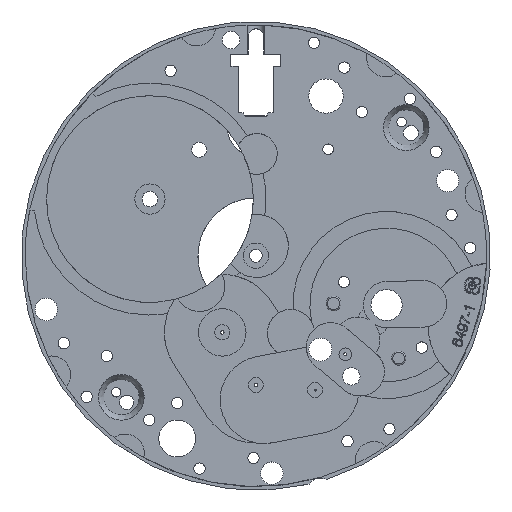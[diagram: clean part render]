
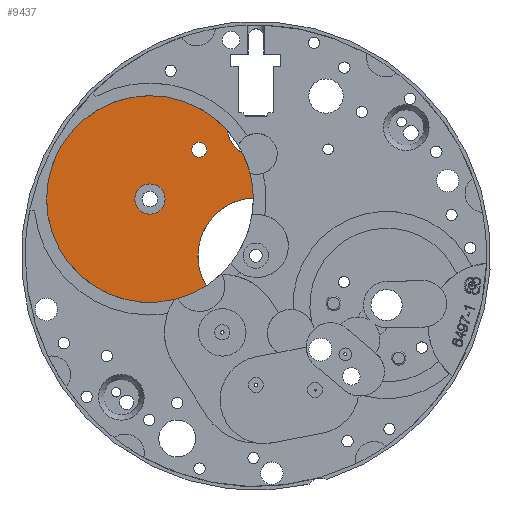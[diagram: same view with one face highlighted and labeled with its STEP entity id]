
A CAD part, top view. The second image highlights one B-rep face of the part: STEP entity #9437.
In plain terms, the highlighted planar face has unit normal (0, 0, 1).
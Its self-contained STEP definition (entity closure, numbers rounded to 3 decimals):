
#896=FACE_BOUND('',#1656,.T.);
#897=FACE_BOUND('',#1657,.T.);
#1144=FACE_OUTER_BOUND('',#1655,.T.);
#1655=EDGE_LOOP('',(#7371,#7372,#7373,#7374,#7375));
#1656=EDGE_LOOP('',(#7376,#7377));
#1657=EDGE_LOOP('',(#7378,#7379));
#2291=CIRCLE('',#10055,4.197);
#2294=CIRCLE('',#10058,4.197);
#2345=CIRCLE('',#10124,7.912);
#2352=CIRCLE('',#10132,2.103);
#2353=CIRCLE('',#10133,2.103);
#2390=CIRCLE('',#10180,28.679);
#2399=CIRCLE('',#10189,28.679);
#2400=CIRCLE('',#10190,28.679);
#2553=CIRCLE('',#10396,16.088);
#4232=VERTEX_POINT('',#14199);
#4233=VERTEX_POINT('',#14200);
#4302=VERTEX_POINT('',#14366);
#4303=VERTEX_POINT('',#14368);
#4309=VERTEX_POINT('',#14385);
#4310=VERTEX_POINT('',#14387);
#4345=VERTEX_POINT('',#14479);
#4346=VERTEX_POINT('',#14480);
#4350=VERTEX_POINT('',#14496);
#5240=EDGE_CURVE('',#4232,#4233,#2291,.T.);
#5244=EDGE_CURVE('',#4233,#4232,#2294,.T.);
#5323=EDGE_CURVE('',#4303,#4302,#2345,.T.);
#5334=EDGE_CURVE('',#4310,#4309,#2352,.T.);
#5335=EDGE_CURVE('',#4309,#4310,#2353,.T.);
#5381=EDGE_CURVE('',#4345,#4346,#2390,.T.);
#5392=EDGE_CURVE('',#4346,#4302,#2399,.T.);
#5393=EDGE_CURVE('',#4303,#4350,#2400,.T.);
#5728=EDGE_CURVE('',#4345,#4350,#2553,.T.);
#7371=ORIENTED_EDGE('',*,*,#5728,.T.);
#7372=ORIENTED_EDGE('',*,*,#5393,.F.);
#7373=ORIENTED_EDGE('',*,*,#5323,.T.);
#7374=ORIENTED_EDGE('',*,*,#5392,.F.);
#7375=ORIENTED_EDGE('',*,*,#5381,.F.);
#7376=ORIENTED_EDGE('',*,*,#5334,.T.);
#7377=ORIENTED_EDGE('',*,*,#5335,.T.);
#7378=ORIENTED_EDGE('',*,*,#5240,.F.);
#7379=ORIENTED_EDGE('',*,*,#5244,.F.);
#9102=PLANE('',#10395);
#9437=ADVANCED_FACE('',(#1144,#896,#897),#9102,.T.);
#10055=AXIS2_PLACEMENT_3D('',#14201,#11427,#11428);
#10058=AXIS2_PLACEMENT_3D('',#14207,#11434,#11435);
#10124=AXIS2_PLACEMENT_3D('',#14369,#11594,#11595);
#10132=AXIS2_PLACEMENT_3D('',#14388,#11614,#11615);
#10133=AXIS2_PLACEMENT_3D('',#14389,#11616,#11617);
#10180=AXIS2_PLACEMENT_3D('',#14481,#11719,#11720);
#10189=AXIS2_PLACEMENT_3D('',#14495,#11739,#11740);
#10190=AXIS2_PLACEMENT_3D('',#14497,#11741,#11742);
#10395=AXIS2_PLACEMENT_3D('',#15312,#12313,#12314);
#10396=AXIS2_PLACEMENT_3D('',#15313,#12315,#12316);
#11427=DIRECTION('center_axis',(0.,0.,1.));
#11428=DIRECTION('ref_axis',(1.,0.,0.));
#11434=DIRECTION('center_axis',(0.,0.,1.));
#11435=DIRECTION('ref_axis',(1.,0.,0.));
#11594=DIRECTION('center_axis',(0.,0.,-1.));
#11595=DIRECTION('ref_axis',(1.,0.,0.));
#11614=DIRECTION('center_axis',(0.,0.,-1.));
#11615=DIRECTION('ref_axis',(1.,0.,0.));
#11616=DIRECTION('center_axis',(0.,0.,-1.));
#11617=DIRECTION('ref_axis',(1.,0.,0.));
#11719=DIRECTION('center_axis',(0.,0.,-1.));
#11720=DIRECTION('ref_axis',(1.,0.,0.));
#11739=DIRECTION('center_axis',(0.,0.,-1.));
#11740=DIRECTION('ref_axis',(1.,0.,0.));
#11741=DIRECTION('center_axis',(0.,0.,-1.));
#11742=DIRECTION('ref_axis',(1.,0.,0.));
#12313=DIRECTION('center_axis',(0.,0.,1.));
#12314=DIRECTION('ref_axis',(1.,0.,0.));
#12315=DIRECTION('center_axis',(0.,0.,-1.));
#12316=DIRECTION('ref_axis',(1.,0.,0.));
#14199=CARTESIAN_POINT('',(-33.575,15.738,-5.771));
#14200=CARTESIAN_POINT('',(-25.181,15.738,-5.771));
#14201=CARTESIAN_POINT('Origin',(-29.378,15.738,-5.771));
#14207=CARTESIAN_POINT('Origin',(-29.378,15.738,-5.771));
#14366=CARTESIAN_POINT('',(-7.869,34.707,-5.771));
#14368=CARTESIAN_POINT('',(-3.72,28.549,-5.771));
#14369=CARTESIAN_POINT('Origin',(0.,35.531,-5.771));
#14385=CARTESIAN_POINT('',(-17.828,29.393,-5.771));
#14387=CARTESIAN_POINT('',(-13.621,29.393,-5.771));
#14388=CARTESIAN_POINT('Origin',(-15.724,29.393,-5.771));
#14389=CARTESIAN_POINT('Origin',(-15.724,29.393,-5.771));
#14479=CARTESIAN_POINT('',(-13.769,-8.321,-5.771));
#14480=CARTESIAN_POINT('',(-58.057,15.738,-5.771));
#14481=CARTESIAN_POINT('Origin',(-29.378,15.738,-5.771));
#14495=CARTESIAN_POINT('Origin',(-29.378,15.738,-5.771));
#14496=CARTESIAN_POINT('',(-0.701,16.073,-5.771));
#14497=CARTESIAN_POINT('Origin',(-29.378,15.738,-5.771));
#15312=CARTESIAN_POINT('Origin',(8.877,-32.561,-5.771));
#15313=CARTESIAN_POINT('Origin',(0.,0.,-5.771));
